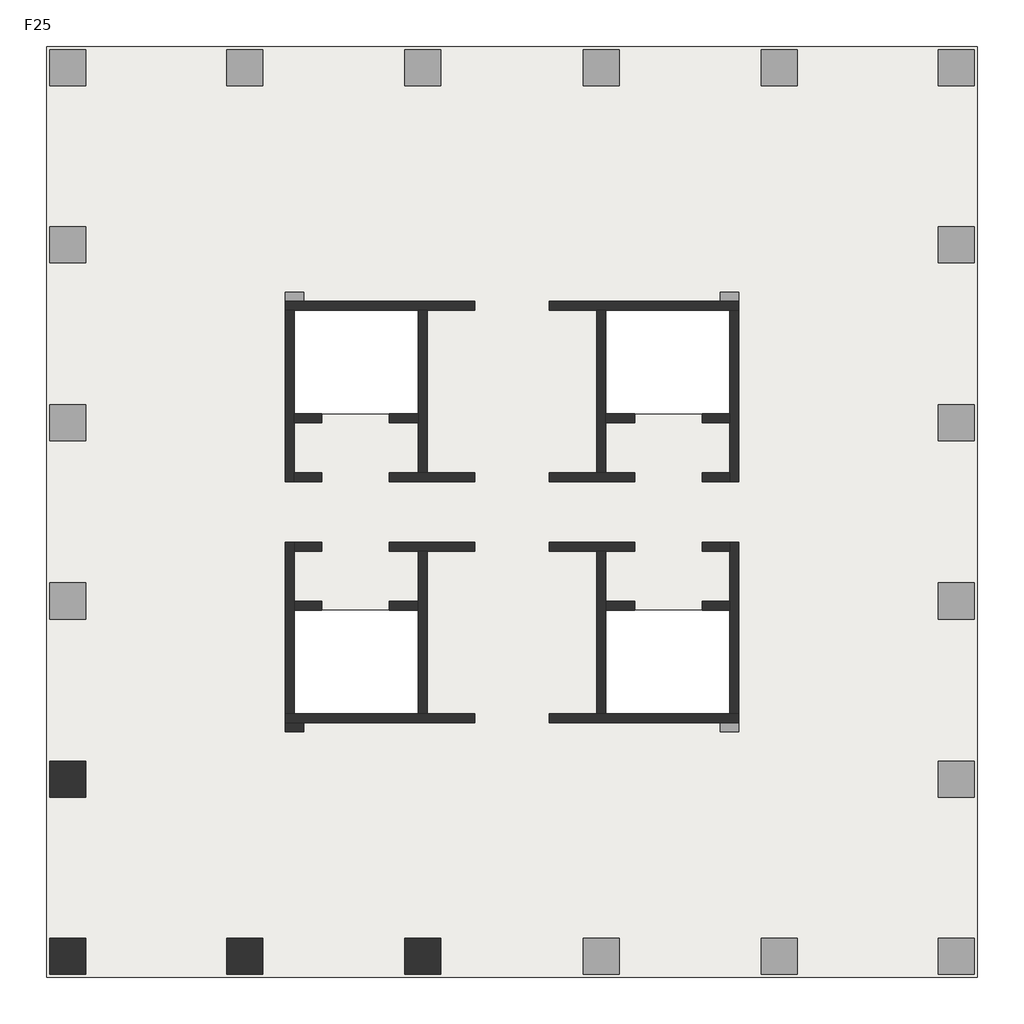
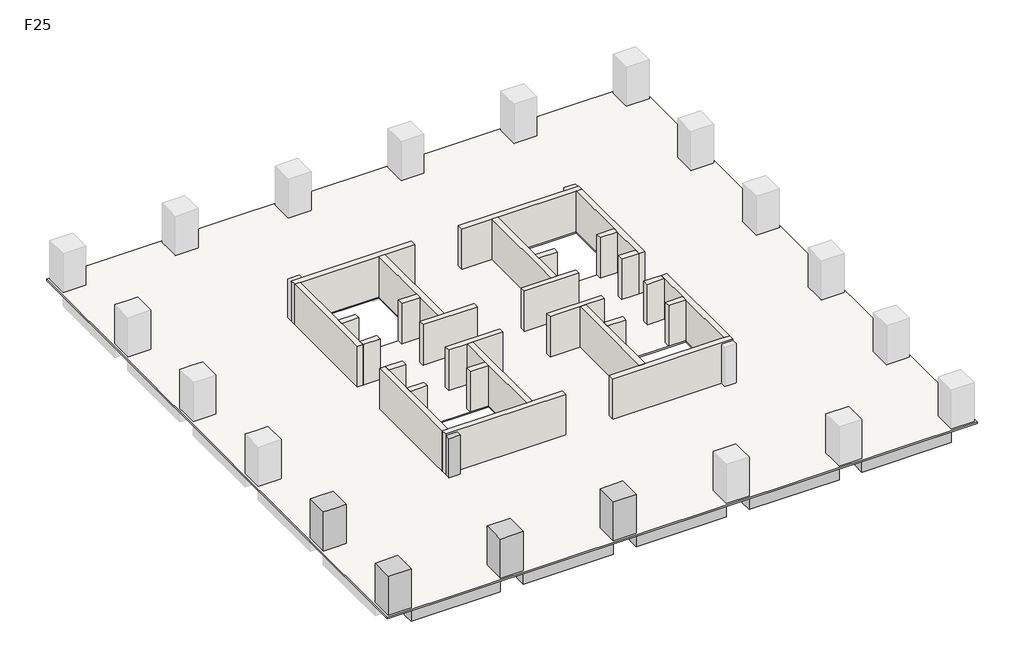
# One storey, part 1 of 2: 28 walls, 5 columns, 3 beams, 1 slab.
"""IFC4 building model written with IfcOpenShell, lengths in millimetres."""

from ifc_helpers import new_model, si_unit, frame, origin, place, context, project, spatial, polyline, outline, extrude, faceted_brep, element, save

model = new_model("IFC4")

# Units and contexts
model_context = context("Model", 3, world=origin())
ifc_project = project(units=[si_unit("LENGTHUNIT", "METRE", prefix="MILLI")], contexts=[model_context])

# Site, building, storey
site = spatial("IfcSite", under=ifc_project)
building = spatial("IfcBuilding", under=site)
storey = spatial("IfcBuildingStorey", under=building, Name="F25", Elevation=93000.0)

# Beams
placement = place(None, origin())
element("IfcBeam", 1, ObjectType="混凝土 - 矩形梁 : KL(5)-800x1000", at=placement, inside=storey, context=model_context, shape_type="SweptSolid", body=[
    extrude(outline(polyline([(-12472.6742169, -13948.9501342), (-12472.6742169, -13148.9501342), (-6222.6742169, -13148.9501342), (-6222.6742169, -13948.9501342), (-12472.6742169, -13948.9501342)])), frame((0.0, 0.0, 92000.0), z_axis=(0.0, 0.0, 1.0), x_axis=(1.0, 0.0, 0.0)), (0.0, 0.0, 1.0), 900.0),
    extrude(outline(polyline([(25327.3257831, -13148.9501342), (25327.3257831, -13948.9501342), (19077.3257831, -13948.9501342), (19077.3257831, -13148.9501342), (25327.3257831, -13148.9501342)])), frame((0.0, 0.0, 92000.0), z_axis=(0.0, 0.0, 1.0), x_axis=(1.0, 0.0, 0.0)), (0.0, 0.0, 1.0), 900.0),
    extrude(outline(polyline([(-4622.6742169, -13948.9501342), (-4622.6742169, -13148.9501342), (1677.3257831, -13148.9501342), (1677.3257831, -13948.9501342), (-4622.6742169, -13948.9501342)])), frame((0.0, 0.0, 92000.0), z_axis=(0.0, 0.0, 1.0), x_axis=(1.0, 0.0, 0.0)), (0.0, 0.0, 1.0), 900.0),
    extrude(outline(polyline([(3277.3257831, -13948.9501342), (3277.3257831, -13148.9501342), (9577.3257831, -13148.9501342), (9577.3257831, -13948.9501342), (3277.3257831, -13948.9501342)])), frame((0.0, 0.0, 92000.0), z_axis=(0.0, 0.0, 1.0), x_axis=(1.0, 0.0, 0.0)), (0.0, 0.0, 1.0), 900.0),
    extrude(outline(polyline([(11177.3257831, -13948.9501342), (11177.3257831, -13148.9501342), (17477.3257831, -13148.9501342), (17477.3257831, -13948.9501342), (11177.3257831, -13948.9501342)])), frame((0.0, 0.0, 92000.0), z_axis=(0.0, 0.0, 1.0), x_axis=(1.0, 0.0, 0.0)), (0.0, 0.0, 1.0), 900.0),
])
element("IfcBeam", 2, ObjectType="混凝土 - 矩形梁 : L1-800x500", at=placement, inside=storey, context=model_context, shape_type="Brep", body=[
    faceted_brep([(-12472.6742169, -5512.1353397, 92500.0), (-3746.9473979, -3341.556529, 92500.0), (-3173.6696907, -3198.9501342, 92500.0), (-3173.6696907, -3198.9501342, 92900.0), (-3746.9473979, -3341.556529, 92900.0), (-12472.6742169, -5512.1353397, 92900.0), (-3622.6742169, -3198.9501342, 92500.0), (-12472.6742169, -4687.7549784, 92500.0), (-3622.6742169, -2486.2624411, 92500.0), (-3622.6742169, -2798.9501342, 92500.0), (-12472.6742169, -4687.7549784, 92900.0), (-3622.6742169, -2486.2624411, 92900.0), (-3622.6742169, -3198.9501342, 92900.0)], [[[0, 1, 2, 3, 4, 5]], [[6, 2, 1, 0, 7, 8, 9]], [[8, 7, 10, 11]], [[2, 6, 12, 3]], [[9, 8, 11, 12, 6]], [[7, 0, 5, 10]], [[5, 4, 3, 12, 11, 10]]]),
])
element("IfcBeam", 3, ObjectType="混凝土 - 矩形梁 : L1-800x500", at=placement, inside=storey, context=model_context, shape_type="SweptSolid", body=[
    extrude(outline(polyline([(-3746.9473979, -3341.556529), (-3173.6696907, -3198.9501342), (-2898.7618154, -3198.9501342), (-4843.6893517, -12348.9501342), (-5661.5624638, -12348.9501342), (-3746.9473979, -3341.556529)])), frame((0.0, 0.0, 92500.0), z_axis=(0.0, 0.0, 1.0), x_axis=(1.0, 0.0, 0.0)), (0.0, 0.0, 1.0), 400.0),
])

# Columns
element("IfcColumn", 4, ObjectType="混凝土 - 矩形 - 柱 : Z1-1600x1600", at=placement, inside=storey, context=model_context, shape_type="Brep", body=[
    faceted_brep([(-12472.6742169, -4498.9501342, 93000.0), (-12472.6742169, -6098.9501342, 93000.0), (-14072.6742169, -6098.9501342, 93000.0), (-14072.6742169, -4498.9501342, 93000.0), (-12472.6742169, -4498.9501342, 95900.0), (-12472.6742169, -6098.9501342, 95900.0), (-13272.6742169, -6098.9501342, 95900.0), (-14072.6742169, -6098.9501342, 95900.0), (-14072.6742169, -6098.9501342, 95000.0), (-14072.6742169, -4498.9501342, 95900.0), (-14072.6742169, -4498.9501342, 95000.0), (-13272.6742169, -4498.9501342, 95900.0)], [[[0, 1, 2, 3]], [[1, 0, 4, 5]], [[2, 1, 5, 6, 7, 8]], [[3, 2, 8, 7, 9, 10]], [[0, 3, 10, 9, 11, 4]], [[5, 4, 11, 9, 7, 6]]]),
])
element("IfcColumn", 5, ObjectType="混凝土 - 矩形 - 柱 : Z1-1600x1600", at=placement, inside=storey, context=model_context, shape_type="SweptSolid", body=[
    extrude(outline(polyline([(-12472.6742169, -12348.9501342), (-12472.6742169, -13948.9501342), (-14072.6742169, -13948.9501342), (-14072.6742169, -12348.9501342), (-12472.6742169, -12348.9501342)])), frame((0.0, 0.0, 93000.0), z_axis=(0.0, 0.0, 1.0), x_axis=(1.0, 0.0, 0.0)), (0.0, 0.0, 1.0), 2900.0),
])
element("IfcColumn", 6, ObjectType="混凝土 - 矩形 - 柱 : Z1-1600x1600", at=placement, inside=storey, context=model_context, shape_type="Brep", body=[
    faceted_brep([(-4622.6742169, -12348.9501342, 93000.0), (-4622.6742169, -13948.9501342, 93000.0), (-6222.6742169, -13948.9501342, 93000.0), (-6222.6742169, -12348.9501342, 93000.0), (-4622.6742169, -12348.9501342, 95900.0), (-4622.6742169, -13148.9501342, 95900.0), (-4622.6742169, -13948.9501342, 95900.0), (-4622.6742169, -13948.9501342, 95000.0), (-6222.6742169, -13948.9501342, 95900.0), (-6222.6742169, -13948.9501342, 95000.0), (-6222.6742169, -13148.9501342, 95900.0), (-6222.6742169, -12348.9501342, 95900.0)], [[[0, 1, 2, 3]], [[1, 0, 4, 5, 6, 7]], [[2, 1, 7, 6, 8, 9]], [[3, 2, 9, 8, 10, 11]], [[0, 3, 11, 4]], [[6, 5, 4, 11, 10, 8]]]),
])
element("IfcColumn", 7, ObjectType="混凝土 - 矩形 - 柱 : Z1-1600x1600", at=placement, inside=storey, context=model_context, shape_type="Brep", body=[
    faceted_brep([(3277.3257831, -12348.9501342, 93000.0), (3277.3257831, -13948.9501342, 93000.0), (1677.3257831, -13948.9501342, 93000.0), (1677.3257831, -12348.9501342, 93000.0), (3277.3257831, -12348.9501342, 95900.0), (3277.3257831, -13148.9501342, 95900.0), (3277.3257831, -13948.9501342, 95900.0), (3277.3257831, -13948.9501342, 95000.0), (1677.3257831, -13948.9501342, 95900.0), (1677.3257831, -13948.9501342, 95000.0), (1677.3257831, -13148.9501342, 95900.0), (1677.3257831, -12348.9501342, 95900.0)], [[[0, 1, 2, 3]], [[1, 0, 4, 5, 6, 7]], [[2, 1, 7, 6, 8, 9]], [[3, 2, 9, 8, 10, 11]], [[0, 3, 11, 4]], [[6, 5, 4, 11, 10, 8]]]),
])
element("IfcColumn", 8, ObjectType="混凝土 - 矩形 - 柱 : Z2-800x800", at=placement, inside=storey, context=model_context, shape_type="SweptSolid", body=[
    extrude(outline(polyline([(-2822.6742169, -3198.9501342), (-3622.6742169, -3198.9501342), (-3622.6742169, -2798.9501342), (-2822.6742169, -2798.9501342), (-2822.6742169, -3198.9501342)])), frame((0.0, 0.0, 93000.0), z_axis=(0.0, 0.0, 1.0), x_axis=(1.0, 0.0, 0.0)), (0.0, 0.0, 1.0), 2900.0),
])

# Slab
element("IfcSlab", 9, ObjectType="LB-100", at=placement, inside=storey, context=model_context, shape_type="SweptSolid", body=[
    extrude(outline(polyline([(27077.3257831, 27201.0498658), (27077.3257831, -14085.2672073), (-14222.6742169, -14085.2672073), (-14222.6742169, 27201.0498658), (27077.3257831, 27201.0498658)]), holes=[polyline([(2277.3257831, 15501.0498658), (-3222.6742169, 15501.0498658), (-3222.6742169, 10901.0498658), (2277.3257831, 10901.0498658), (2277.3257831, 15501.0498658)]), polyline([(2277.3257831, 2201.0498658), (-3222.6742169, 2201.0498658), (-3222.6742169, -2398.9501342), (2277.3257831, -2398.9501342), (2277.3257831, 2201.0498658)]), polyline([(16077.3257831, 2201.0498658), (10577.3257831, 2201.0498658), (10577.3257831, -2398.9501342), (16077.3257831, -2398.9501342), (16077.3257831, 2201.0498658)]), polyline([(16077.3257831, 15501.0498658), (10577.3257831, 15501.0498658), (10577.3257831, 10901.0498658), (16077.3257831, 10901.0498658), (16077.3257831, 15501.0498658)])]), frame((0.0, 0.0, 92900.0), z_axis=(0.0, 0.0, 1.0), x_axis=(1.0, 0.0, 0.0)), (0.0, 0.0, 1.0), 100.0),
])

# Walls
element("IfcWall", 10, ObjectType="剪力墙-400", at=placement, inside=storey, context=model_context, shape_type="Brep", body=[
    faceted_brep([(-3622.6742169, 15501.0498658, 93000.0), (-3222.6742169, 15501.0498658, 93000.0), (2277.3257831, 15501.0498658, 93000.0), (2677.3257831, 15501.0498658, 93000.0), (4777.3257831, 15501.0498658, 93000.0), (4777.3257831, 15501.0498658, 96000.0), (2677.3257831, 15501.0498658, 96000.0), (2277.3257831, 15501.0498658, 96000.0), (-3222.6742169, 15501.0498658, 96000.0), (-3622.6742169, 15501.0498658, 96000.0), (-3622.6742169, 15901.0498658, 93000.0), (-3622.6742169, 15901.0498658, 95900.0), (-3622.6742169, 15901.0498658, 96000.0), (4777.3257831, 15901.0498658, 96000.0), (4777.3257831, 15901.0498658, 93000.0), (-2822.6742169, 15901.0498658, 93000.0)], [[[0, 1, 2, 3, 4, 5, 6, 7, 8, 9]], [[10, 11, 12, 13, 14, 15]], [[4, 3, 2, 1, 0, 10, 15, 14]], [[5, 4, 14, 13]], [[9, 8, 7, 6, 5, 13, 12]], [[0, 9, 12, 11, 10]]]),
])
element("IfcWall", 11, ObjectType="剪力墙-400", at=placement, inside=storey, context=model_context, shape_type="Brep", body=[
    faceted_brep([(2277.3257831, 15501.0498658, 93000.0), (2277.3257831, 10901.0498658, 93000.0), (2277.3257831, 10501.0498658, 93000.0), (2277.3257831, 8301.0498658, 93000.0), (2277.3257831, 8301.0498658, 96000.0), (2277.3257831, 10501.0498658, 96000.0), (2277.3257831, 10901.0498658, 96000.0), (2277.3257831, 15501.0498658, 96000.0), (2677.3257831, 15501.0498658, 93000.0), (2677.3257831, 15501.0498658, 96000.0), (2677.3257831, 8301.0498658, 96000.0), (2677.3257831, 8301.0498658, 93000.0)], [[[0, 1, 2, 3, 4, 5, 6, 7]], [[8, 9, 10, 11]], [[3, 2, 1, 0, 8, 11]], [[7, 6, 5, 4, 10, 9]], [[0, 7, 9, 8]], [[4, 3, 11, 10]]]),
])
element("IfcWall", 12, ObjectType="剪力墙-400", at=placement, inside=storey, context=model_context, shape_type="Brep", body=[
    faceted_brep([(-3622.6742169, 15501.0498658, 93000.0), (-3622.6742169, 7901.0498658, 93000.0), (-3622.6742169, 7901.0498658, 96000.0), (-3622.6742169, 15501.0498658, 96000.0), (-3222.6742169, 15501.0498658, 93000.0), (-3222.6742169, 15501.0498658, 96000.0), (-3222.6742169, 10901.0498658, 96000.0), (-3222.6742169, 10501.0498658, 96000.0), (-3222.6742169, 8301.0498658, 96000.0), (-3222.6742169, 7901.0498658, 96000.0), (-3222.6742169, 7901.0498658, 93000.0), (-3222.6742169, 8301.0498658, 93000.0), (-3222.6742169, 10501.0498658, 93000.0), (-3222.6742169, 10901.0498658, 93000.0)], [[[0, 1, 2, 3]], [[4, 5, 6, 7, 8, 9, 10, 11, 12, 13]], [[1, 0, 4, 13, 12, 11, 10]], [[3, 2, 9, 8, 7, 6, 5]], [[0, 3, 5, 4]], [[2, 1, 10, 9]]]),
])
element("IfcWall", 13, ObjectType="剪力墙-400", at=placement, inside=storey, context=model_context, shape_type="SweptSolid", body=[
    extrude(outline(polyline([(-2022.6742169, 7901.0498658), (-3222.6742169, 7901.0498658), (-3222.6742169, 8301.0498658), (-2022.6742169, 8301.0498658), (-2022.6742169, 7901.0498658)])), frame((0.0, 0.0, 93000.0), z_axis=(0.0, 0.0, 1.0), x_axis=(1.0, 0.0, 0.0)), (0.0, 0.0, 1.0), 3000.0),
])
element("IfcWall", 14, ObjectType="剪力墙-400", at=placement, inside=storey, context=model_context, shape_type="Brep", body=[
    faceted_brep([(977.3257831, 7901.0498658, 93000.0), (4777.3257831, 7901.0498658, 93000.0), (4777.3257831, 7901.0498658, 96000.0), (977.3257831, 7901.0498658, 96000.0), (977.3257831, 8301.0498658, 93000.0), (977.3257831, 8301.0498658, 96000.0), (2277.3257831, 8301.0498658, 96000.0), (2677.3257831, 8301.0498658, 96000.0), (4777.3257831, 8301.0498658, 96000.0), (4777.3257831, 8301.0498658, 93000.0), (2677.3257831, 8301.0498658, 93000.0), (2277.3257831, 8301.0498658, 93000.0)], [[[0, 1, 2, 3]], [[4, 5, 6, 7, 8, 9, 10, 11]], [[1, 0, 4, 11, 10, 9]], [[2, 1, 9, 8]], [[3, 2, 8, 7, 6, 5]], [[0, 3, 5, 4]]]),
])
element("IfcWall", 15, ObjectType="剪力墙-400", at=placement, inside=storey, context=model_context, shape_type="SweptSolid", body=[
    extrude(outline(polyline([(-2022.6742169, 10501.0498658), (-3222.6742169, 10501.0498658), (-3222.6742169, 10901.0498658), (-2022.6742169, 10901.0498658), (-2022.6742169, 10501.0498658)])), frame((0.0, 0.0, 93000.0), z_axis=(0.0, 0.0, 1.0), x_axis=(1.0, 0.0, 0.0)), (0.0, 0.0, 1.0), 3000.0),
])
element("IfcWall", 16, ObjectType="剪力墙-400", at=placement, inside=storey, context=model_context, shape_type="SweptSolid", body=[
    extrude(outline(polyline([(2277.3257831, 10501.0498658), (977.3257831, 10501.0498658), (977.3257831, 10901.0498658), (2277.3257831, 10901.0498658), (2277.3257831, 10501.0498658)])), frame((0.0, 0.0, 93000.0), z_axis=(0.0, 0.0, 1.0), x_axis=(1.0, 0.0, 0.0)), (0.0, 0.0, 1.0), 3000.0),
])
element("IfcWall", 17, ObjectType="剪力墙-400", at=placement, inside=storey, context=model_context, shape_type="Brep", body=[
    faceted_brep([(16477.3257831, 15901.0498658, 93000.0), (15677.3257831, 15901.0498658, 93000.0), (8077.3257831, 15901.0498658, 93000.0), (8077.3257831, 15901.0498658, 96000.0), (16477.3257831, 15901.0498658, 96000.0), (16477.3257831, 15901.0498658, 95900.0), (16477.3257831, 15501.0498658, 93000.0), (16477.3257831, 15501.0498658, 96000.0), (16077.3257831, 15501.0498658, 96000.0), (10577.3257831, 15501.0498658, 96000.0), (10177.3257831, 15501.0498658, 96000.0), (8077.3257831, 15501.0498658, 96000.0), (8077.3257831, 15501.0498658, 93000.0), (10177.3257831, 15501.0498658, 93000.0), (10577.3257831, 15501.0498658, 93000.0), (16077.3257831, 15501.0498658, 93000.0)], [[[0, 1, 2, 3, 4, 5]], [[6, 7, 8, 9, 10, 11, 12, 13, 14, 15]], [[2, 1, 0, 6, 15, 14, 13, 12]], [[3, 2, 12, 11]], [[4, 3, 11, 10, 9, 8, 7]], [[0, 5, 4, 7, 6]]]),
])
element("IfcWall", 18, ObjectType="剪力墙-400", at=placement, inside=storey, context=model_context, shape_type="Brep", body=[
    faceted_brep([(10177.3257831, 15501.0498658, 93000.0), (10177.3257831, 8301.0498658, 93000.0), (10177.3257831, 8301.0498658, 96000.0), (10177.3257831, 15501.0498658, 96000.0), (10577.3257831, 15501.0498658, 93000.0), (10577.3257831, 15501.0498658, 96000.0), (10577.3257831, 10901.0498658, 96000.0), (10577.3257831, 10501.0498658, 96000.0), (10577.3257831, 8301.0498658, 96000.0), (10577.3257831, 8301.0498658, 93000.0), (10577.3257831, 10501.0498658, 93000.0), (10577.3257831, 10901.0498658, 93000.0)], [[[0, 1, 2, 3]], [[4, 5, 6, 7, 8, 9, 10, 11]], [[1, 0, 4, 11, 10, 9]], [[3, 2, 8, 7, 6, 5]], [[0, 3, 5, 4]], [[2, 1, 9, 8]]]),
])
element("IfcWall", 19, ObjectType="剪力墙-400", at=placement, inside=storey, context=model_context, shape_type="Brep", body=[
    faceted_brep([(16077.3257831, 15501.0498658, 93000.0), (16077.3257831, 10901.0498658, 93000.0), (16077.3257831, 10501.0498658, 93000.0), (16077.3257831, 8301.0498658, 93000.0), (16077.3257831, 7901.0498658, 93000.0), (16077.3257831, 7901.0498658, 96000.0), (16077.3257831, 8301.0498658, 96000.0), (16077.3257831, 10501.0498658, 96000.0), (16077.3257831, 10901.0498658, 96000.0), (16077.3257831, 15501.0498658, 96000.0), (16477.3257831, 15501.0498658, 93000.0), (16477.3257831, 15501.0498658, 96000.0), (16477.3257831, 7901.0498658, 96000.0), (16477.3257831, 7901.0498658, 93000.0)], [[[0, 1, 2, 3, 4, 5, 6, 7, 8, 9]], [[10, 11, 12, 13]], [[4, 3, 2, 1, 0, 10, 13]], [[9, 8, 7, 6, 5, 12, 11]], [[0, 9, 11, 10]], [[5, 4, 13, 12]]]),
])
element("IfcWall", 20, ObjectType="剪力墙-400", at=placement, inside=storey, context=model_context, shape_type="SweptSolid", body=[
    extrude(outline(polyline([(14877.3257831, 8301.0498658), (16077.3257831, 8301.0498658), (16077.3257831, 7901.0498658), (14877.3257831, 7901.0498658), (14877.3257831, 8301.0498658)])), frame((0.0, 0.0, 93000.0), z_axis=(0.0, 0.0, 1.0), x_axis=(1.0, 0.0, 0.0)), (0.0, 0.0, 1.0), 3000.0),
])
element("IfcWall", 21, ObjectType="剪力墙-400", at=placement, inside=storey, context=model_context, shape_type="Brep", body=[
    faceted_brep([(11877.3257831, 8301.0498658, 93000.0), (10577.3257831, 8301.0498658, 93000.0), (10177.3257831, 8301.0498658, 93000.0), (8077.3257831, 8301.0498658, 93000.0), (8077.3257831, 8301.0498658, 96000.0), (10177.3257831, 8301.0498658, 96000.0), (10577.3257831, 8301.0498658, 96000.0), (11877.3257831, 8301.0498658, 96000.0), (11877.3257831, 7901.0498658, 93000.0), (11877.3257831, 7901.0498658, 96000.0), (8077.3257831, 7901.0498658, 96000.0), (8077.3257831, 7901.0498658, 93000.0)], [[[0, 1, 2, 3, 4, 5, 6, 7]], [[8, 9, 10, 11]], [[3, 2, 1, 0, 8, 11]], [[4, 3, 11, 10]], [[7, 6, 5, 4, 10, 9]], [[0, 7, 9, 8]]]),
])
element("IfcWall", 22, ObjectType="剪力墙-400", at=placement, inside=storey, context=model_context, shape_type="SweptSolid", body=[
    extrude(outline(polyline([(14877.3257831, 10901.0498658), (16077.3257831, 10901.0498658), (16077.3257831, 10501.0498658), (14877.3257831, 10501.0498658), (14877.3257831, 10901.0498658)])), frame((0.0, 0.0, 93000.0), z_axis=(0.0, 0.0, 1.0), x_axis=(1.0, 0.0, 0.0)), (0.0, 0.0, 1.0), 3000.0),
])
element("IfcWall", 23, ObjectType="剪力墙-400", at=placement, inside=storey, context=model_context, shape_type="SweptSolid", body=[
    extrude(outline(polyline([(10577.3257831, 10901.0498658), (11877.3257831, 10901.0498658), (11877.3257831, 10501.0498658), (10577.3257831, 10501.0498658), (10577.3257831, 10901.0498658)])), frame((0.0, 0.0, 93000.0), z_axis=(0.0, 0.0, 1.0), x_axis=(1.0, 0.0, 0.0)), (0.0, 0.0, 1.0), 3000.0),
])
element("IfcWall", 24, ObjectType="剪力墙-400", at=placement, inside=storey, context=model_context, shape_type="Brep", body=[
    faceted_brep([(-3622.6742169, -2798.9501342, 93000.0), (-2822.6742169, -2798.9501342, 93000.0), (4777.3257831, -2798.9501342, 93000.0), (4777.3257831, -2798.9501342, 96000.0), (-3622.6742169, -2798.9501342, 96000.0), (-3622.6742169, -2798.9501342, 95900.0), (-3622.6742169, -2398.9501342, 93000.0), (-3622.6742169, -2398.9501342, 96000.0), (-3222.6742169, -2398.9501342, 96000.0), (2277.3257831, -2398.9501342, 96000.0), (2677.3257831, -2398.9501342, 96000.0), (4777.3257831, -2398.9501342, 96000.0), (4777.3257831, -2398.9501342, 93000.0), (2677.3257831, -2398.9501342, 93000.0), (2277.3257831, -2398.9501342, 93000.0), (-3222.6742169, -2398.9501342, 93000.0)], [[[0, 1, 2, 3, 4, 5]], [[6, 7, 8, 9, 10, 11, 12, 13, 14, 15]], [[2, 1, 0, 6, 15, 14, 13, 12]], [[3, 2, 12, 11]], [[4, 3, 11, 10, 9, 8, 7]], [[0, 5, 4, 7, 6]]]),
])
element("IfcWall", 25, ObjectType="剪力墙-400", at=placement, inside=storey, context=model_context, shape_type="Brep", body=[
    faceted_brep([(2677.3257831, -2398.9501342, 93000.0), (2677.3257831, 4801.0498658, 93000.0), (2677.3257831, 4801.0498658, 96000.0), (2677.3257831, -2398.9501342, 96000.0), (2277.3257831, -2398.9501342, 93000.0), (2277.3257831, -2398.9501342, 96000.0), (2277.3257831, 2201.0498658, 96000.0), (2277.3257831, 2601.0498658, 96000.0), (2277.3257831, 4801.0498658, 96000.0), (2277.3257831, 4801.0498658, 93000.0), (2277.3257831, 2601.0498658, 93000.0), (2277.3257831, 2201.0498658, 93000.0)], [[[0, 1, 2, 3]], [[4, 5, 6, 7, 8, 9, 10, 11]], [[1, 0, 4, 11, 10, 9]], [[3, 2, 8, 7, 6, 5]], [[0, 3, 5, 4]], [[2, 1, 9, 8]]]),
])
element("IfcWall", 26, ObjectType="剪力墙-400", at=placement, inside=storey, context=model_context, shape_type="Brep", body=[
    faceted_brep([(-3222.6742169, -2398.9501342, 93000.0), (-3222.6742169, 2201.0498658, 93000.0), (-3222.6742169, 2601.0498658, 93000.0), (-3222.6742169, 4801.0498658, 93000.0), (-3222.6742169, 5201.0498658, 93000.0), (-3222.6742169, 5201.0498658, 96000.0), (-3222.6742169, 4801.0498658, 96000.0), (-3222.6742169, 2601.0498658, 96000.0), (-3222.6742169, 2201.0498658, 96000.0), (-3222.6742169, -2398.9501342, 96000.0), (-3622.6742169, -2398.9501342, 93000.0), (-3622.6742169, -2398.9501342, 96000.0), (-3622.6742169, 5201.0498658, 96000.0), (-3622.6742169, 5201.0498658, 93000.0)], [[[0, 1, 2, 3, 4, 5, 6, 7, 8, 9]], [[10, 11, 12, 13]], [[4, 3, 2, 1, 0, 10, 13]], [[9, 8, 7, 6, 5, 12, 11]], [[0, 9, 11, 10]], [[5, 4, 13, 12]]]),
])
element("IfcWall", 27, ObjectType="剪力墙-400", at=placement, inside=storey, context=model_context, shape_type="SweptSolid", body=[
    extrude(outline(polyline([(-2022.6742169, 4801.0498658), (-3222.6742169, 4801.0498658), (-3222.6742169, 5201.0498658), (-2022.6742169, 5201.0498658), (-2022.6742169, 4801.0498658)])), frame((0.0, 0.0, 93000.0), z_axis=(0.0, 0.0, 1.0), x_axis=(1.0, 0.0, 0.0)), (0.0, 0.0, 1.0), 3000.0),
])
element("IfcWall", 28, ObjectType="剪力墙-400", at=placement, inside=storey, context=model_context, shape_type="Brep", body=[
    faceted_brep([(977.3257831, 4801.0498658, 93000.0), (2277.3257831, 4801.0498658, 93000.0), (2677.3257831, 4801.0498658, 93000.0), (4777.3257831, 4801.0498658, 93000.0), (4777.3257831, 4801.0498658, 96000.0), (2677.3257831, 4801.0498658, 96000.0), (2277.3257831, 4801.0498658, 96000.0), (977.3257831, 4801.0498658, 96000.0), (977.3257831, 5201.0498658, 93000.0), (977.3257831, 5201.0498658, 96000.0), (4777.3257831, 5201.0498658, 96000.0), (4777.3257831, 5201.0498658, 93000.0)], [[[0, 1, 2, 3, 4, 5, 6, 7]], [[8, 9, 10, 11]], [[3, 2, 1, 0, 8, 11]], [[4, 3, 11, 10]], [[7, 6, 5, 4, 10, 9]], [[0, 7, 9, 8]]]),
])
element("IfcWall", 29, ObjectType="剪力墙-400", at=placement, inside=storey, context=model_context, shape_type="SweptSolid", body=[
    extrude(outline(polyline([(-2022.6742169, 2201.0498658), (-3222.6742169, 2201.0498658), (-3222.6742169, 2601.0498658), (-2022.6742169, 2601.0498658), (-2022.6742169, 2201.0498658)])), frame((0.0, 0.0, 93000.0), z_axis=(0.0, 0.0, 1.0), x_axis=(1.0, 0.0, 0.0)), (0.0, 0.0, 1.0), 3000.0),
])
element("IfcWall", 30, ObjectType="剪力墙-400", at=placement, inside=storey, context=model_context, shape_type="SweptSolid", body=[
    extrude(outline(polyline([(2277.3257831, 2201.0498658), (977.3257831, 2201.0498658), (977.3257831, 2601.0498658), (2277.3257831, 2601.0498658), (2277.3257831, 2201.0498658)])), frame((0.0, 0.0, 93000.0), z_axis=(0.0, 0.0, 1.0), x_axis=(1.0, 0.0, 0.0)), (0.0, 0.0, 1.0), 3000.0),
])
element("IfcWall", 31, ObjectType="剪力墙-400", at=placement, inside=storey, context=model_context, shape_type="Brep", body=[
    faceted_brep([(16477.3257831, -2398.9501342, 93000.0), (16077.3257831, -2398.9501342, 93000.0), (10577.3257831, -2398.9501342, 93000.0), (10177.3257831, -2398.9501342, 93000.0), (8077.3257831, -2398.9501342, 93000.0), (8077.3257831, -2398.9501342, 96000.0), (10177.3257831, -2398.9501342, 96000.0), (10577.3257831, -2398.9501342, 96000.0), (16077.3257831, -2398.9501342, 96000.0), (16477.3257831, -2398.9501342, 96000.0), (16477.3257831, -2798.9501342, 93000.0), (16477.3257831, -2798.9501342, 95900.0), (16477.3257831, -2798.9501342, 96000.0), (8077.3257831, -2798.9501342, 96000.0), (8077.3257831, -2798.9501342, 93000.0), (15677.3257831, -2798.9501342, 93000.0)], [[[0, 1, 2, 3, 4, 5, 6, 7, 8, 9]], [[10, 11, 12, 13, 14, 15]], [[4, 3, 2, 1, 0, 10, 15, 14]], [[5, 4, 14, 13]], [[9, 8, 7, 6, 5, 13, 12]], [[0, 9, 12, 11, 10]]]),
])
element("IfcWall", 32, ObjectType="剪力墙-400", at=placement, inside=storey, context=model_context, shape_type="Brep", body=[
    faceted_brep([(10577.3257831, -2398.9501342, 93000.0), (10577.3257831, 2201.0498658, 93000.0), (10577.3257831, 2601.0498658, 93000.0), (10577.3257831, 4801.0498658, 93000.0), (10577.3257831, 4801.0498658, 96000.0), (10577.3257831, 2601.0498658, 96000.0), (10577.3257831, 2201.0498658, 96000.0), (10577.3257831, -2398.9501342, 96000.0), (10177.3257831, -2398.9501342, 93000.0), (10177.3257831, -2398.9501342, 96000.0), (10177.3257831, 4801.0498658, 96000.0), (10177.3257831, 4801.0498658, 93000.0)], [[[0, 1, 2, 3, 4, 5, 6, 7]], [[8, 9, 10, 11]], [[3, 2, 1, 0, 8, 11]], [[7, 6, 5, 4, 10, 9]], [[0, 7, 9, 8]], [[4, 3, 11, 10]]]),
])
element("IfcWall", 33, ObjectType="剪力墙-400", at=placement, inside=storey, context=model_context, shape_type="Brep", body=[
    faceted_brep([(16477.3257831, -2398.9501342, 93000.0), (16477.3257831, 5201.0498658, 93000.0), (16477.3257831, 5201.0498658, 96000.0), (16477.3257831, -2398.9501342, 96000.0), (16077.3257831, -2398.9501342, 93000.0), (16077.3257831, -2398.9501342, 96000.0), (16077.3257831, 2201.0498658, 96000.0), (16077.3257831, 2601.0498658, 96000.0), (16077.3257831, 4801.0498658, 96000.0), (16077.3257831, 5201.0498658, 96000.0), (16077.3257831, 5201.0498658, 93000.0), (16077.3257831, 4801.0498658, 93000.0), (16077.3257831, 2601.0498658, 93000.0), (16077.3257831, 2201.0498658, 93000.0)], [[[0, 1, 2, 3]], [[4, 5, 6, 7, 8, 9, 10, 11, 12, 13]], [[1, 0, 4, 13, 12, 11, 10]], [[3, 2, 9, 8, 7, 6, 5]], [[0, 3, 5, 4]], [[2, 1, 10, 9]]]),
])
element("IfcWall", 34, ObjectType="剪力墙-400", at=placement, inside=storey, context=model_context, shape_type="SweptSolid", body=[
    extrude(outline(polyline([(14877.3257831, 5201.0498658), (16077.3257831, 5201.0498658), (16077.3257831, 4801.0498658), (14877.3257831, 4801.0498658), (14877.3257831, 5201.0498658)])), frame((0.0, 0.0, 93000.0), z_axis=(0.0, 0.0, 1.0), x_axis=(1.0, 0.0, 0.0)), (0.0, 0.0, 1.0), 3000.0),
])
element("IfcWall", 35, ObjectType="剪力墙-400", at=placement, inside=storey, context=model_context, shape_type="Brep", body=[
    faceted_brep([(11877.3257831, 5201.0498658, 93000.0), (8077.3257831, 5201.0498658, 93000.0), (8077.3257831, 5201.0498658, 96000.0), (11877.3257831, 5201.0498658, 96000.0), (11877.3257831, 4801.0498658, 93000.0), (11877.3257831, 4801.0498658, 96000.0), (10577.3257831, 4801.0498658, 96000.0), (10177.3257831, 4801.0498658, 96000.0), (8077.3257831, 4801.0498658, 96000.0), (8077.3257831, 4801.0498658, 93000.0), (10177.3257831, 4801.0498658, 93000.0), (10577.3257831, 4801.0498658, 93000.0)], [[[0, 1, 2, 3]], [[4, 5, 6, 7, 8, 9, 10, 11]], [[1, 0, 4, 11, 10, 9]], [[2, 1, 9, 8]], [[3, 2, 8, 7, 6, 5]], [[0, 3, 5, 4]]]),
])
element("IfcWall", 36, ObjectType="剪力墙-400", at=placement, inside=storey, context=model_context, shape_type="SweptSolid", body=[
    extrude(outline(polyline([(14877.3257831, 2601.0498658), (16077.3257831, 2601.0498658), (16077.3257831, 2201.0498658), (14877.3257831, 2201.0498658), (14877.3257831, 2601.0498658)])), frame((0.0, 0.0, 93000.0), z_axis=(0.0, 0.0, 1.0), x_axis=(1.0, 0.0, 0.0)), (0.0, 0.0, 1.0), 3000.0),
])
element("IfcWall", 37, ObjectType="剪力墙-400", at=placement, inside=storey, context=model_context, shape_type="SweptSolid", body=[
    extrude(outline(polyline([(10577.3257831, 2601.0498658), (11877.3257831, 2601.0498658), (11877.3257831, 2201.0498658), (10577.3257831, 2201.0498658), (10577.3257831, 2601.0498658)])), frame((0.0, 0.0, 93000.0), z_axis=(0.0, 0.0, 1.0), x_axis=(1.0, 0.0, 0.0)), (0.0, 0.0, 1.0), 3000.0),
])

save(model, "model.ifc")
